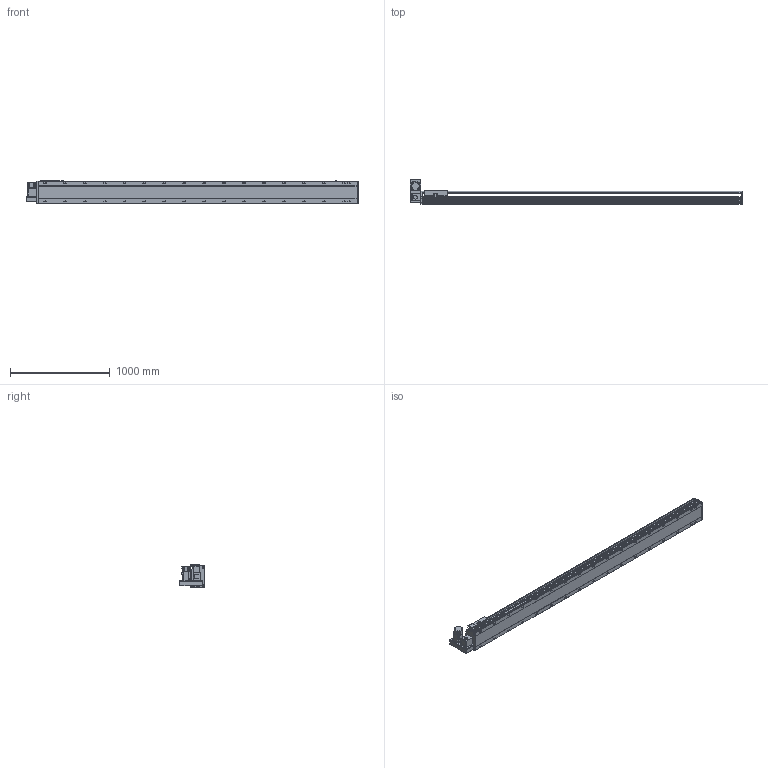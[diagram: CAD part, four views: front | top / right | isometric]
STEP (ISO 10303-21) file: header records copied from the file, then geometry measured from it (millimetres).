
FILE_DESCRIPTION(/* description */ ('STEP AP214'),/* implementation_level */ '2;1');
FILE_NAME(/* name */ 'PBS220-P40-S2850-LU-T75-C1-N(0)',/* time_stamp */ '2022-06-13T02:39:31+02:00',/* author */ ('License CC BY-ND 4.0'),/* organization */ ('CADENAS'),/* preprocessor_version */ 'ST-DEVELOPER v18.102',/* originating_system */ 'PARTsolutions',/* authorisation */ ' ');
FILE_SCHEMA (('AUTOMOTIVE_DESIGN {1 0 10303 214 3 1 1}'));
Length unit declared in the file: millimetre
Products named in the file (7): PBS220-P40-S2850-LU-T75-C1-N(0); PBS220_sensor; PBS220_plant; PBS220_sliser; T75-p1; PBS220T-LU_motors; PBS220-S2850()_body
Assembly tree (8 placements, depth 2):
  PBS220-P40-S2850-LU-T75-C1-N(0)
    PBS220_sensor  x3
    PBS220_plant
    PBS220_sliser
    T75-p1
    PBS220T-LU_motors
    PBS220-S2850()_body
Bounding box: 3334 x 247 x 238.5 mm (x, y, z)
Volume: 46366034.8 mm3; surface area: 4222438.8 mm2
Topology: 8 solids, 8 shells, 1022 faces, 2648 edges, 1720 vertices
Faces by surface type: plane 634, cylinder 330, cone 58
Full cylindrical faces by diameter (mm): 2.013 x4, 4.5 x14, 4.917 x4, 6 x7, 6.647 x8, 8 x10, 8.376 x34, 8.5 x34, 10 x6, 14 x34, 38 x2, 40 x1, 70 x1
Entity records: 28437 total; most frequent: CARTESIAN_POINT 5086, DIRECTION 4941, ORIENTED_EDGE 4430, EDGE_CURVE 2215, AXIS2_PLACEMENT_3D 1789, VERTEX_POINT 1560, LINE 1363, VECTOR 1363
